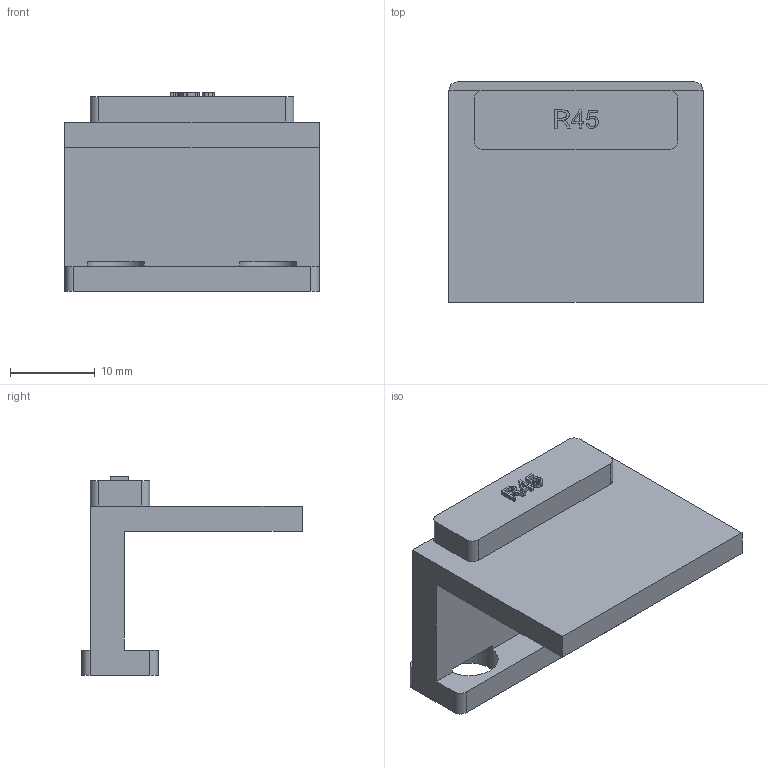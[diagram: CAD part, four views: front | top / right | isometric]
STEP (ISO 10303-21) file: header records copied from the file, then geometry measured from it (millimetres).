
FILE_DESCRIPTION(('Open CASCADE Model'),'2;1');
FILE_NAME('Open CASCADE Shape Model','1970-01-01T00:00:00',('Author'),( 'Open CASCADE'),'Open CASCADE STEP processor 7.8','Open CASCADE 7.8' ,'Unknown');
FILE_SCHEMA(('AUTOMOTIVE_DESIGN { 1 0 10303 214 1 1 1 1 }'));
Length unit declared in the file: millimetre
Products named in the file (2): Open CASCADE STEP translator 7.8 11; R45 support ceiling
Assembly tree (1 placements, depth 2):
  Open CASCADE STEP translator 7.8 11
    R45 support ceiling
Bounding box: 30 x 26 x 23.48 mm (x, y, z)
Volume: 5001.4 mm3; surface area: 3580 mm2
Topology: 1 solids, 1 shells, 96 faces, 271 edges, 180 vertices
Faces by surface type: plane 55, extrusion 31, cylinder 10
Full cylindrical faces by diameter (mm): 6.8 x2
Entity records: 7103 total; most frequent: CARTESIAN_POINT 2055, DIRECTION 758, VECTOR 556, ORIENTED_EDGE 542, PCURVE 542, DEFINITIONAL_REPRESENTATION 542, LINE 525, EDGE_CURVE 271
